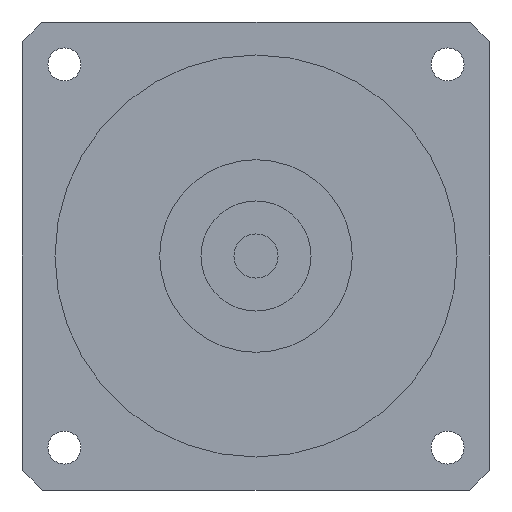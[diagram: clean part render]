
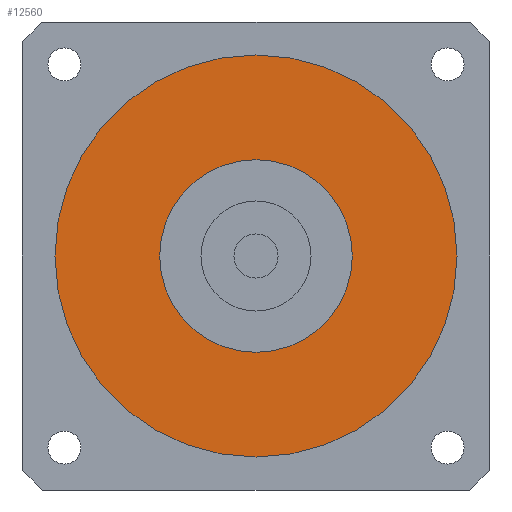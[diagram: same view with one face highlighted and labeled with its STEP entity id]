
A CAD part, left-side view. The second image highlights one B-rep face of the part: STEP entity #12560.
In plain terms, the highlighted planar face has unit normal (-1, 0, 0) as drawn and (0, 0, -1) by its records, which use the part's own axes.
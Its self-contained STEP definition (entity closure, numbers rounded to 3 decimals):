
#11950=CARTESIAN_POINT('',(0.,0.,
-92.5));
#11960=DIRECTION('',(0.,0.,1.));
#11970=DIRECTION('',(0.,-1.,0.));
#11980=AXIS2_PLACEMENT_3D('',#11950,#11960,#11970);
#11990=CIRCLE('',#11980,17.5);
#12000=CARTESIAN_POINT('',(0.,-17.5,-92.5));
#12010=VERTEX_POINT('',#12000);
#12020=CARTESIAN_POINT('',(17.5,0.,-92.5));
#12030=VERTEX_POINT('',#12020);
#12040=EDGE_CURVE('',#12010,#12030,#11990,.T.);
#12170=CARTESIAN_POINT('',(-17.5,0.,-92.5));
#12180=VERTEX_POINT('',#12170);
#12210=EDGE_CURVE('',#12180,#12010,#11990,.T.);
#12260=CARTESIAN_POINT('',(0.,0.,
-92.5));
#12270=DIRECTION('',(0.,0.,1.));
#12280=DIRECTION('',(-1.,0.,0.));
#12290=AXIS2_PLACEMENT_3D('',#12260,#12270,#12280);
#12300=PLANE('',#12290);
#12310=CARTESIAN_POINT('',(0.,0.,
-92.5));
#12320=DIRECTION('',(0.,0.,1.));
#12330=DIRECTION('',(0.,-1.,0.));
#12340=AXIS2_PLACEMENT_3D('',#12310,#12320,#12330);
#12350=CIRCLE('',#12340,36.51);
#12360=CARTESIAN_POINT('',(0.,-36.51,-92.5));
#12370=VERTEX_POINT('',#12360);
#12380=CARTESIAN_POINT('',(36.51,0.,-92.5));
#12390=VERTEX_POINT('',#12380);
#12400=EDGE_CURVE('',#12370,#12390,#12350,.T.);
#12410=ORIENTED_EDGE('',*,*,#12400,.F.);
#12420=CARTESIAN_POINT('',(-36.51,0.,-92.5));
#12430=VERTEX_POINT('',#12420);
#12440=EDGE_CURVE('',#12390,#12430,#12350,.T.);
#12450=ORIENTED_EDGE('',*,*,#12440,.F.);
#12460=EDGE_CURVE('',#12430,#12370,#12350,.T.);
#12470=ORIENTED_EDGE('',*,*,#12460,.F.);
#12480=EDGE_LOOP('',(#12470,#12450,#12410));
#12490=FACE_OUTER_BOUND('',#12480,.T.);
#12500=EDGE_CURVE('',#12030,#12180,#11990,.T.);
#12510=ORIENTED_EDGE('',*,*,#12500,.T.);
#12520=ORIENTED_EDGE('',*,*,#12040,.T.);
#12530=ORIENTED_EDGE('',*,*,#12210,.T.);
#12540=EDGE_LOOP('',(#12530,#12520,#12510));
#12550=FACE_BOUND('',#12540,.T.);
#12560=ADVANCED_FACE('',(#12490,#12550),#12300,.F.);
